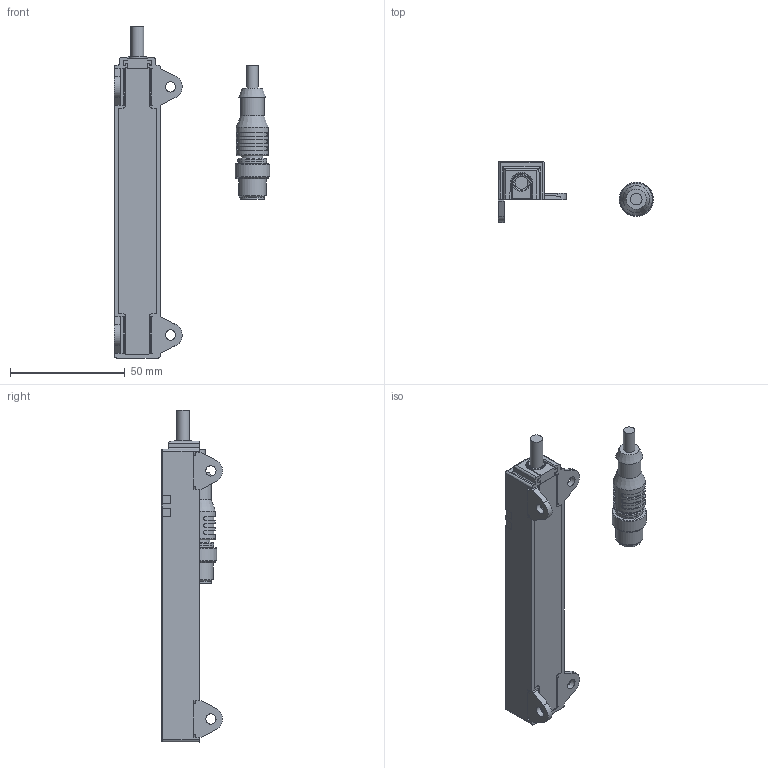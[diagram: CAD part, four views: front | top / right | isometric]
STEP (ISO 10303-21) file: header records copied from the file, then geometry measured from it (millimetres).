
FILE_DESCRIPTION((''),'2;1');
FILE_NAME('C:\TurckZip\Li100P1-Q17LM1-X2-RS.stp','2011-09-29T10:19:11',('IKOROL'),(''),'Autodesk Inventor 2010','Autodesk Inventor 2010','');
FILE_SCHEMA(('CONFIG_CONTROL_DESIGN'));
Length unit declared in the file: millimetre
Products named in the file (1): Li100P1-Q17LM1-X2-RS
Bounding box: 67.5 x 26.58 x 144.5 mm (x, y, z)
Volume: 47415.4 mm3; surface area: 18815.8 mm2
Topology: 2 solids, 2 shells, 606 faces, 1706 edges, 1106 vertices
Faces by surface type: plane 384, cylinder 189, cone 24, torus 9
Full cylindrical faces by diameter (mm): 4.5 x4, 5 x1, 5.6 x1, 7.5 x1, 8.3 x1, 9 x1, 9.9 x1, 10.2 x1, 10.5 x1, 10.7 x1, 12 x2, 12.5 x1, 14 x1, 14.2 x1, 15 x1
Entity records: 19948 total; most frequent: CARTESIAN_POINT 4032, ORIENTED_EDGE 3342, DIRECTION 3264, EDGE_CURVE 1671, VECTOR 1188, LINE 1188, VERTEX_POINT 1096, AXIS2_PLACEMENT_3D 1038
